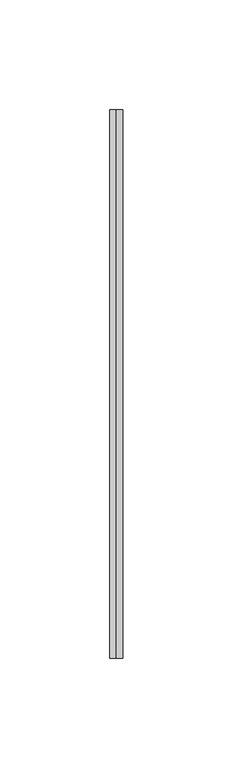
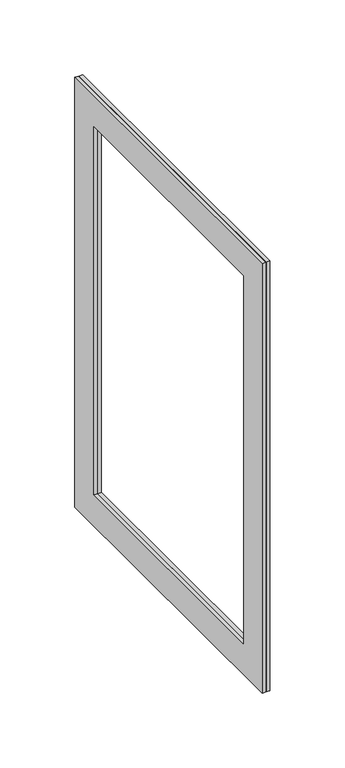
"""IFC4 building model written with IfcOpenShell, lengths in millimetres: duct fitting geometry, BL_ФланецВоздуховдов-Двойной_Прямоугольный_БезКоннекторов : BL_ФланецВоздуховдов-Двойной_Прямоугольный_БезКоннекторов."""

from ifc_helpers import new_model, si_unit, frame, origin, place, context, project, spatial, polyline, outline, extrude, source, transform, mapped, element, save


def duct_fitting_0a8e2603(model_context):
    return source(origin(), model_context, "Body", "SweptSolid", [
        extrude(outline(polyline([(170.6742229, 175.0), (170.6742229, -175.0), (-79.3257771, -175.0), (-79.3257771, 175.0), (170.6742229, 175.0)]), holes=[polyline([(145.6742229, 150.0), (-54.3257771, 150.0), (-54.3257771, -150.0), (145.6742229, -150.0), (145.6742229, 150.0)])]), frame((0.0, 0.0, 0.0), z_axis=(1.0, 0.0, 0.0), x_axis=(0.0, 1.0, 0.0)), (0.0, 0.0, 1.0), 3.0),
        extrude(outline(polyline([(170.6742229, 175.0), (170.6742229, -175.0), (-79.3257771, -175.0), (-79.3257771, 175.0), (170.6742229, 175.0)]), holes=[polyline([(-54.3257771, 150.0), (-54.3257771, -150.0), (145.6742229, -150.0), (145.6742229, 150.0), (-54.3257771, 150.0)])]), frame((-3.0, 0.0, 0.0), z_axis=(1.0, 0.0, 0.0), x_axis=(0.0, 1.0, 0.0)), (0.0, 0.0, 1.0), 3.0),
    ])


if __name__ == "__main__":
    model = new_model("IFC4")
    model_context = context("Model", 3, world=origin())
    ifc_project = project(units=[si_unit("LENGTHUNIT", "METRE", prefix="MILLI")], contexts=[model_context])
    site = spatial("IfcSite", under=ifc_project)
    building = spatial("IfcBuilding", under=site)
    placement = place(None, origin())
    duct_fitting_shape = duct_fitting_0a8e2603(model_context)
    element("IfcDuctFitting", 1, ObjectType="BL_ФланецВоздуховдов-Двойной_Прямоугольный_БезКоннекторов : BL_ФланецВоздуховдов-Двойной_Прямоугольный_БезКоннекторов", at=placement, inside=building, context=model_context, shape_type="MappedRepresentation", body=[
        mapped(duct_fitting_shape, transform((0.0, 0.0, 0.0), x_axis=(1.0, 0.0, 0.0), y_axis=(0.0, 1.0, 0.0), z_axis=(0.0, 0.0, 1.0))),
    ])
    save(model, "model.ifc")
